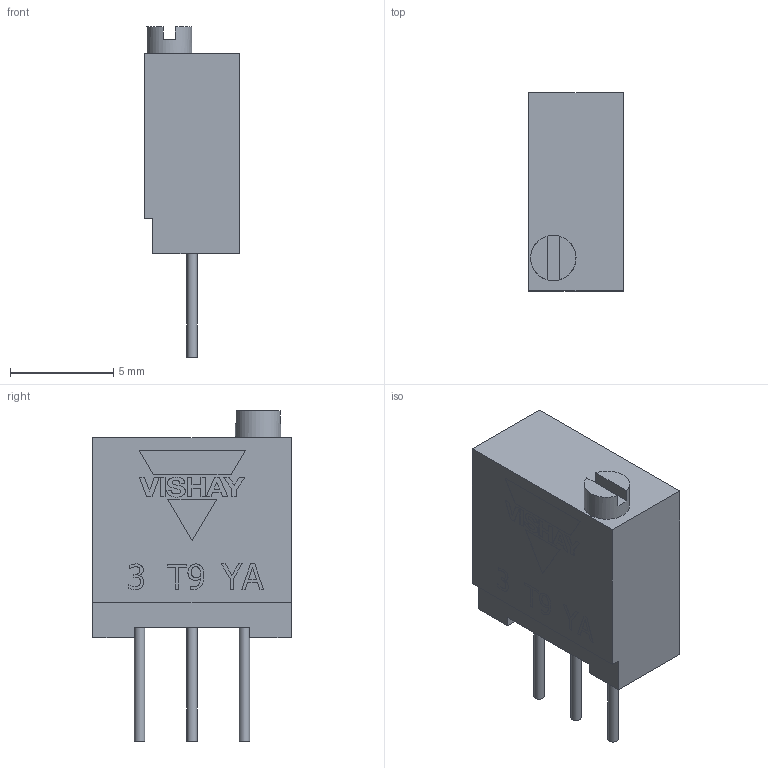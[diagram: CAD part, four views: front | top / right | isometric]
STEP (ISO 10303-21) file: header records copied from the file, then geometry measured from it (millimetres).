
FILE_DESCRIPTION(/* description */ ('Unknown'),/* implementation_level */ '2;1');
FILE_NAME(/* name */ 'T9YA',/* time_stamp */ '2018-01-18T10:57:04+01:00',/* author */ ('Unknown'),/* organization */ ('Unknown'),/* preprocessor_version */ 'ST-DEVELOPER v16.7',/* originating_system */ 'DEX',/* authorisation */ $);
FILE_SCHEMA (('AUTOMOTIVE_DESIGN {1 0 10303 214 3 1 1}'));
Length unit declared in the file: millimetre
Products named in the file (1): Gabarit - T93
Bounding box: 4.6 x 9.6 x 16 mm (x, y, z)
Volume: 417.4 mm3; surface area: 398.4 mm2
Topology: 1 solids, 1 shells, 144 faces, 366 edges, 244 vertices
Faces by surface type: plane 126, bspline 14, cylinder 4
Full cylindrical faces by diameter (mm): 0.5 x3, 2.2 x1
Entity records: 5756 total; most frequent: CARTESIAN_POINT 1697, ORIENTED_EDGE 722, DIRECTION 426, EDGE_CURVE 361, VERTEX_POINT 243, B_SPLINE_CURVE_WITH_KNOTS 208, EDGE_LOOP 168, FACE_BOUND 168
